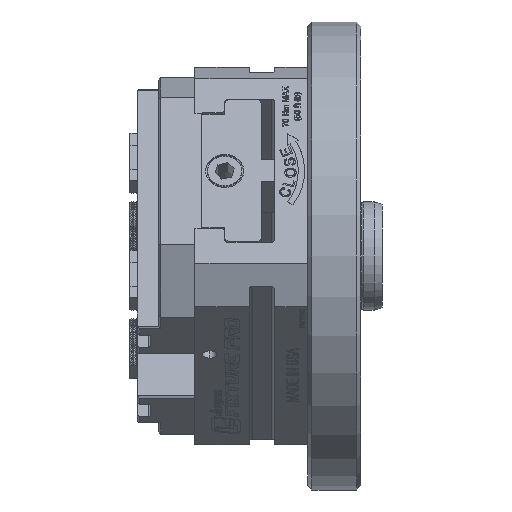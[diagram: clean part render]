
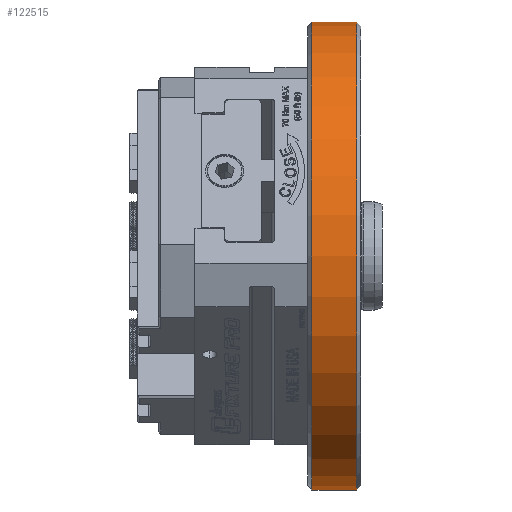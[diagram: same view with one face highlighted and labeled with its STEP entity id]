
A CAD part, left-side view. The second image highlights one B-rep face of the part: STEP entity #122515.
In plain terms, the highlighted cylindrical face has radius 110 mm (diameter 220 mm), a partial arc.
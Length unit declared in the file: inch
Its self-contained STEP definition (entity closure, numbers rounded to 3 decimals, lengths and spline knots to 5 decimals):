
#704 = DIRECTION ( 'NONE',  ( 0., 0., -1. ) ) ;
#1514 = DIRECTION ( 'NONE',  ( 0., -1., 0. ) ) ;
#8258 = CIRCLE ( 'NONE', #118217, 4.33071 ) ;
#10259 = CARTESIAN_POINT ( 'NONE',  ( 0., 0.90551, 0. ) ) ;
#14126 = AXIS2_PLACEMENT_3D ( 'NONE', #95644, #96899, #704 ) ;
#14873 = CARTESIAN_POINT ( 'NONE',  ( 0., 0.90551, 4.33071 ) ) ;
#15264 = VECTOR ( 'NONE', #1514, 39.37008 ) ;
#15640 = VERTEX_POINT ( 'NONE', #88448 ) ;
#30944 = CARTESIAN_POINT ( 'NONE',  ( 0., 0.07874, -4.33071 ) ) ;
#36500 = ORIENTED_EDGE ( 'NONE', *, *, #54029, .T. ) ;
#40721 = CARTESIAN_POINT ( 'NONE',  ( 0., 0.07874, 0. ) ) ;
#45252 = CIRCLE ( 'NONE', #77191, 4.33071 ) ;
#48461 = DIRECTION ( 'NONE',  ( 0., -1., 0. ) ) ;
#54029 = EDGE_CURVE ( 'NONE', #15640, #67005, #61026, .T. ) ;
#61026 = LINE ( 'NONE', #71639, #85836 ) ;
#61971 = EDGE_CURVE ( 'NONE', #67005, #92198, #45252, .T. ) ;
#67005 = VERTEX_POINT ( 'NONE', #30944 ) ;
#67037 = DIRECTION ( 'NONE',  ( 0., 1., 0. ) ) ;
#71639 = CARTESIAN_POINT ( 'NONE',  ( 0., 0.98425, -4.33071 ) ) ;
#74264 = EDGE_CURVE ( 'NONE', #103474, #15640, #8258, .T. ) ;
#75893 = ORIENTED_EDGE ( 'NONE', *, *, #91914, .F. ) ;
#77191 = AXIS2_PLACEMENT_3D ( 'NONE', #40721, #67037, #96990 ) ;
#81006 = DIRECTION ( 'NONE',  ( 0., -1., 0. ) ) ;
#85836 = VECTOR ( 'NONE', #81006, 39.37008 ) ;
#85864 = LINE ( 'NONE', #96488, #15264 ) ;
#88448 = CARTESIAN_POINT ( 'NONE',  ( 0., 0.90551, -4.33071 ) ) ;
#91914 = EDGE_CURVE ( 'NONE', #103474, #92198, #85864, .T. ) ;
#92198 = VERTEX_POINT ( 'NONE', #104561 ) ;
#95280 = DIRECTION ( 'NONE',  ( 0., 0., 1. ) ) ;
#95644 = CARTESIAN_POINT ( 'NONE',  ( 0., 0.98425, 0. ) ) ;
#96488 = CARTESIAN_POINT ( 'NONE',  ( 0., 0.98425, 4.33071 ) ) ;
#96899 = DIRECTION ( 'NONE',  ( 0., -1., 0. ) ) ;
#96990 = DIRECTION ( 'NONE',  ( 0., 0., 1. ) ) ;
#101482 = EDGE_LOOP ( 'NONE', ( #75893, #119405, #36500, #122859 ) ) ;
#103474 = VERTEX_POINT ( 'NONE', #14873 ) ;
#104561 = CARTESIAN_POINT ( 'NONE',  ( 0., 0.07874, 4.33071 ) ) ;
#105127 = FACE_OUTER_BOUND ( 'NONE', #101482, .T. ) ;
#115180 = CYLINDRICAL_SURFACE ( 'NONE', #14126, 4.33071 ) ;
#118217 = AXIS2_PLACEMENT_3D ( 'NONE', #10259, #48461, #95280 ) ;
#119405 = ORIENTED_EDGE ( 'NONE', *, *, #74264, .T. ) ;
#122515 = ADVANCED_FACE ( 'NONE', ( #105127 ), #115180, .T. ) ;
#122859 = ORIENTED_EDGE ( 'NONE', *, *, #61971, .T. ) ;
